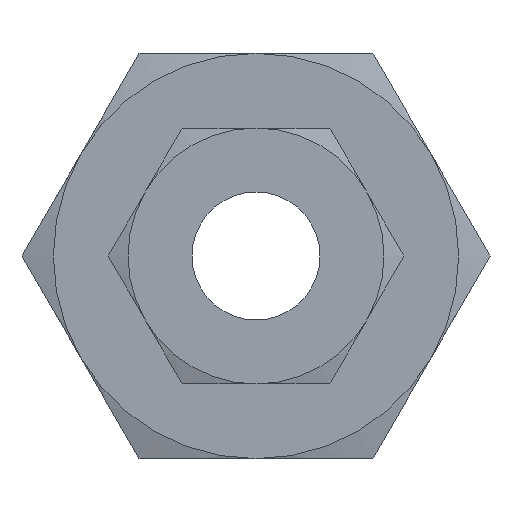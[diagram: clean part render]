
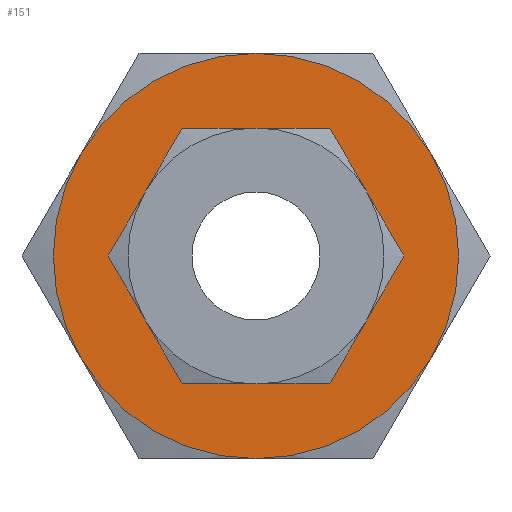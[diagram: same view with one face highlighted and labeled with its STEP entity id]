
A CAD part, left-side view. The second image highlights one B-rep face of the part: STEP entity #151.
In plain terms, the highlighted planar face has unit normal (-1, 0, 0).
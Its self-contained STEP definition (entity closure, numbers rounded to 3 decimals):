
#151 = ADVANCED_FACE( '', ( #319, #320 ), #321, .F. );
#319 = FACE_OUTER_BOUND( '', #494, .T. );
#320 = FACE_BOUND( '', #495, .T. );
#321 = PLANE( '', #496 );
#494 = EDGE_LOOP( '', ( #832, #833, #834, #835, #836, #837 ) );
#495 = EDGE_LOOP( '', ( #838 ) );
#496 = AXIS2_PLACEMENT_3D( '', #839, #840, #841 );
#832 = ORIENTED_EDGE( '', *, *, #1009, .F. );
#833 = ORIENTED_EDGE( '', *, *, #996, .F. );
#834 = ORIENTED_EDGE( '', *, *, #1061, .F. );
#835 = ORIENTED_EDGE( '', *, *, #1062, .F. );
#836 = ORIENTED_EDGE( '', *, *, #968, .F. );
#837 = ORIENTED_EDGE( '', *, *, #1045, .F. );
#838 = ORIENTED_EDGE( '', *, *, #1063, .T. );
#839 = CARTESIAN_POINT( '', ( 13.95, 4.45, 0. ) );
#840 = DIRECTION( '', ( 1., 0., 0. ) );
#841 = DIRECTION( '', ( 0., 0., -1. ) );
#968 = EDGE_CURVE( '', #1137, #1093, #1139, .T. );
#996 = EDGE_CURVE( '', #1182, #1183, #1184, .T. );
#1009 = EDGE_CURVE( '', #1183, #1201, #1202, .T. );
#1045 = EDGE_CURVE( '', #1201, #1137, #1250, .T. );
#1061 = EDGE_CURVE( '', #1242, #1182, #1267, .T. );
#1062 = EDGE_CURVE( '', #1093, #1242, #1268, .T. );
#1063 = EDGE_CURVE( '', #1269, #1269, #1270, .T. );
#1093 = VERTEX_POINT( '', #1314 );
#1137 = VERTEX_POINT( '', #1407 );
#1139 = CIRCLE( '', #1414, 9.5 );
#1182 = VERTEX_POINT( '', #1494 );
#1183 = VERTEX_POINT( '', #1495 );
#1184 = CIRCLE( '', #1496, 9.5 );
#1201 = VERTEX_POINT( '', #1534 );
#1202 = CIRCLE( '', #1535, 9.5 );
#1242 = VERTEX_POINT( '', #1609 );
#1250 = CIRCLE( '', #1633, 9.5 );
#1267 = CIRCLE( '', #1671, 9.5 );
#1268 = CIRCLE( '', #1672, 9.5 );
#1269 = VERTEX_POINT( '', #1673 );
#1270 = CIRCLE( '', #1674, 4.45 );
#1314 = CARTESIAN_POINT( '', ( 13.95, -8.227, 4.75 ) );
#1407 = CARTESIAN_POINT( '', ( 13.95, 0., 9.5 ) );
#1414 = AXIS2_PLACEMENT_3D( '', #1741, #1742, #1743 );
#1494 = CARTESIAN_POINT( '', ( 13.95, 0., -9.5 ) );
#1495 = CARTESIAN_POINT( '', ( 13.95, 8.227, -4.75 ) );
#1496 = AXIS2_PLACEMENT_3D( '', #1778, #1779, #1780 );
#1534 = CARTESIAN_POINT( '', ( 13.95, 8.227, 4.75 ) );
#1535 = AXIS2_PLACEMENT_3D( '', #1793, #1794, #1795 );
#1609 = CARTESIAN_POINT( '', ( 13.95, -8.227, -4.75 ) );
#1633 = AXIS2_PLACEMENT_3D( '', #1820, #1821, #1822 );
#1671 = AXIS2_PLACEMENT_3D( '', #1825, #1826, #1827 );
#1672 = AXIS2_PLACEMENT_3D( '', #1828, #1829, #1830 );
#1673 = CARTESIAN_POINT( '', ( 13.95, 0., -4.45 ) );
#1674 = AXIS2_PLACEMENT_3D( '', #1831, #1832, #1833 );
#1741 = CARTESIAN_POINT( '', ( 13.95, 0., 0. ) );
#1742 = DIRECTION( '', ( 1., 0., 0. ) );
#1743 = DIRECTION( '', ( 0., 0., -1. ) );
#1778 = CARTESIAN_POINT( '', ( 13.95, 0., 0. ) );
#1779 = DIRECTION( '', ( 1., 0., 0. ) );
#1780 = DIRECTION( '', ( 0., 0., -1. ) );
#1793 = CARTESIAN_POINT( '', ( 13.95, 0., 0. ) );
#1794 = DIRECTION( '', ( 1., 0., 0. ) );
#1795 = DIRECTION( '', ( 0., 0., -1. ) );
#1820 = CARTESIAN_POINT( '', ( 13.95, 0., 0. ) );
#1821 = DIRECTION( '', ( 1., 0., 0. ) );
#1822 = DIRECTION( '', ( 0., 0., -1. ) );
#1825 = CARTESIAN_POINT( '', ( 13.95, 0., 0. ) );
#1826 = DIRECTION( '', ( 1., 0., 0. ) );
#1827 = DIRECTION( '', ( 0., 0., -1. ) );
#1828 = CARTESIAN_POINT( '', ( 13.95, 0., 0. ) );
#1829 = DIRECTION( '', ( 1., 0., 0. ) );
#1830 = DIRECTION( '', ( 0., 0., -1. ) );
#1831 = CARTESIAN_POINT( '', ( 13.95, 0., 0. ) );
#1832 = DIRECTION( '', ( 1., 0., 0. ) );
#1833 = DIRECTION( '', ( 0., 0., -1. ) );
